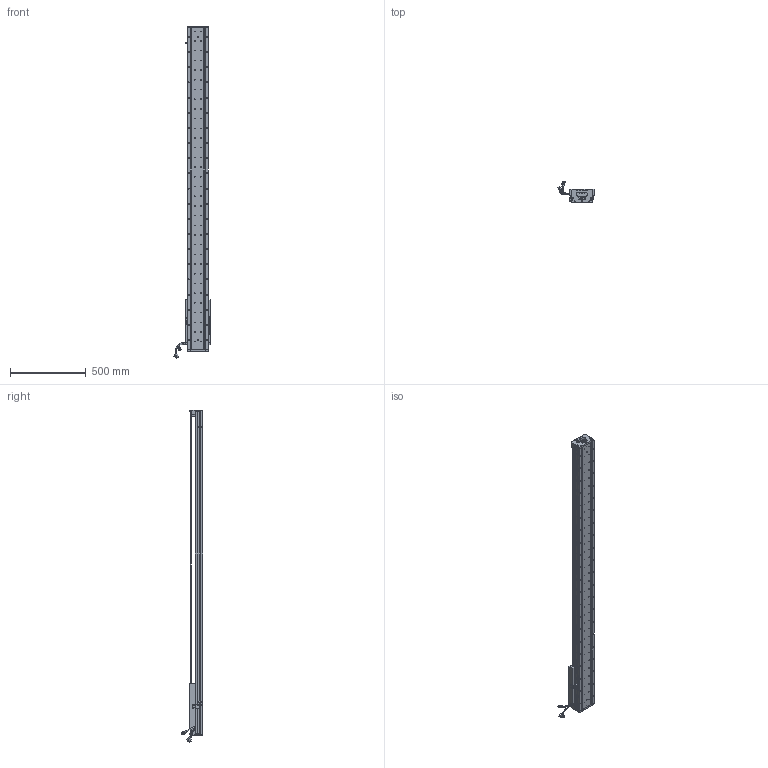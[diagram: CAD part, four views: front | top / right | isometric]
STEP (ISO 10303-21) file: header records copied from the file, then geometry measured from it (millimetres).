
FILE_DESCRIPTION (( 'STEP AP203' ), '1' );
FILE_NAME ('Z4-RY140D-1-L500-B-K.SLDASM_1750.step', '2021-05-17T08:17:26', ( '盈信电脑' ), ( '东莞市道滘镇水果街19号' ), 'SwSTEP 2.0', 'SolidWorks 2016', '' );
FILE_SCHEMA (( 'CONFIG_CONTROL_DESIGN' ));
Length unit declared in the file: millimetre
Products named in the file (36): 140雄赽晤鎢ん堤盄; 140蚥薯蝶輸; Z4-RY140-L500直线电机模组底座_1750; Z-140詩湍傷裔啣; LABEL; 覜茼ん672; 榋妏寠巭燃_暯_M2_2; SCALE-Part-1; SEAL; SEAL-Part-1; HARNESS-Part-2; PSLH080_PSLF2; 140-Z-臏賑輸盄裔(21遴); SCREW-M1.6-3; LABEL-Part-1; SCREW-M1.7; COVER; SCREW-M1.7-1; SCALE-Part-2; PBU_SHEET; Z-RY140感应器672光电感应片; Z4-RY140-L500詩湍100mm遵_1750; HARNESS-Part-1; 詩湍狟揤裔; HOLDER0; SHIELDPLATE; Z4-RY140D-1-L500-B-K.SLDASM_1750; HARNESS; SCREW-M1.6; SCALE; 詩湍奻揤裔; Z4-RY140圉猾敕臏賑輸(21遴); 080黍杅芛假蚾釱21遴; SCREW-M1.6-1; COVER-Part-1; SCREW-M1.6-2
Assembly tree (41 placements, depth 4):
  Z4-RY140D-1-L500-B-K.SLDASM_1750
    Z4-RY140-L500直线电机模组底座_1750
    Z-RY140感应器672光电感应片
    Z4-RY140圉猾敕臏賑輸(21遴)
    覜茼ん672  x3
    Z4-RY140-L500詩湍100mm遵_1750
    PSLH080_PSLF2
      SCALE
        SCALE-Part-1
        SCALE-Part-2
      HARNESS
        HARNESS-Part-1
        HARNESS-Part-2
      LABEL
        LABEL-Part-1
      COVER
        COVER-Part-1
      SEAL
        SEAL-Part-1
      榋妏寠巭燃_暯_M2_2
      SHIELDPLATE
      SCREW-M1.7
      SCREW-M1.7-1
      PBU_SHEET
      SCREW-M1.6
      SCREW-M1.6-1
      SCREW-M1.6-2
      SCREW-M1.6-3
      HOLDER0
    080黍杅芛假蚾釱21遴
    140-Z-臏賑輸盄裔(21遴)
    Z-140詩湍傷裔啣  x2
    詩湍狟揤裔  x2
    詩湍奻揤裔  x2
    140蚥薯蝶輸  x2
    140雄赽晤鎢ん堤盄
Bounding box: 239.84 x 143.88 x 2190.87 mm (x, y, z)
Volume: 7399770.6 mm3; surface area: 1903270.6 mm2
Topology: 36 solids, 36 shells, 3782 faces, 10208 edges, 6463 vertices
Faces by surface type: cylinder 1986, plane 1300, cone 374, torus 69, bspline 53
Entity records: 117760 total; most frequent: CARTESIAN_POINT 32409, ORIENTED_EDGE 17392, DIRECTION 16380, EDGE_CURVE 8696, AXIS2_PLACEMENT_3D 6082, VERTEX_POINT 5631, VECTOR 4216, LINE 4216
